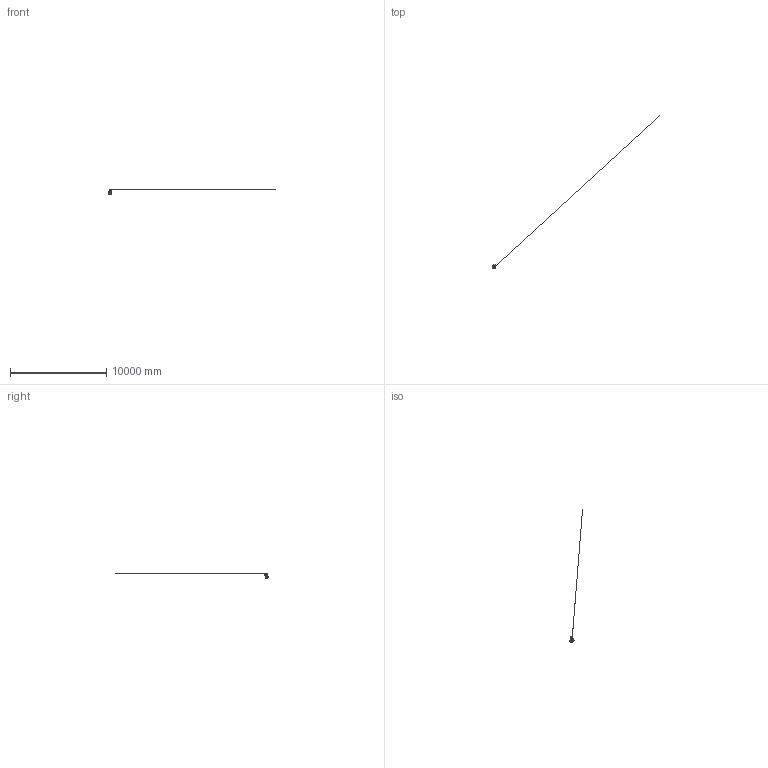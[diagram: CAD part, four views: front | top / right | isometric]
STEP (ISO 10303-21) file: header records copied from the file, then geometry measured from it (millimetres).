
FILE_DESCRIPTION(('STEP AP203'), '1');
FILE_NAME('ZARD 150.040.22.P.stp', '2013-12-06T13:25:56', ('007'), ('007'), 'ASCON STEP Converter 1.3', 'Kompas 3D', '');
FILE_SCHEMA(('CONFIG_CONTROL_DESIGN','SUPPORT_RESOURCE_SCHEMA'));
Length unit declared in the file: millimetre
Products named in the file (1): 5
Bounding box: 17440.16 x 15814.71 x 541.73 mm (x, y, z)
Topology: 31 solids, 32 shells, 2358 faces, 6023 edges, 3784 vertices
Faces by surface type: plane 1031, cylinder 452, cone 306, bspline 304, torus 209, extrusion 29, sphere 27
Full cylindrical faces by diameter (mm): 2 x4, 3.242 x2, 5 x4, 5.6 x3, 6.1 x2, 6.647 x8, 8 x4, 8.376 x4, 9 x4, 10.106 x4, 12 x12, 16 x1, 20 x38, 22 x2, 23.75 x2, 24 x3, 26 x17, 27 x2, 32 x2, 35 x1, 57.1 x2, 59 x2, 60 x5, 64 x1, 68 x1, 73 x1, 117 x1, 136 x1, 176 x1, 190 x2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
Entity records: 161878 total; most frequent: CARTESIAN_POINT 109683, ORIENTED_EDGE 11840, DIRECTION 9185, EDGE_CURVE 5922, VERTEX_POINT 3765, AXIS2_PLACEMENT_3D 3290, VECTOR 2605, EDGE_LOOP 2589
